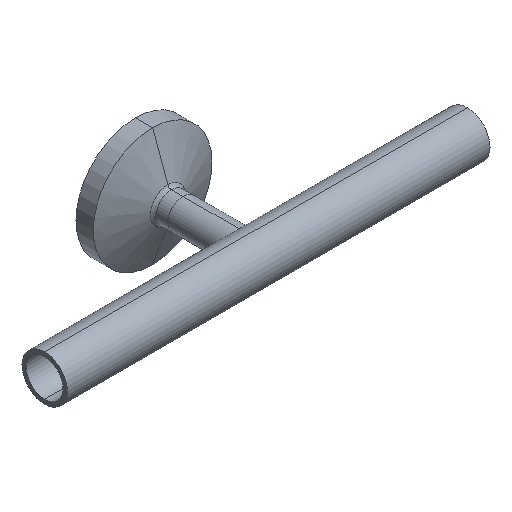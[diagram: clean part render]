
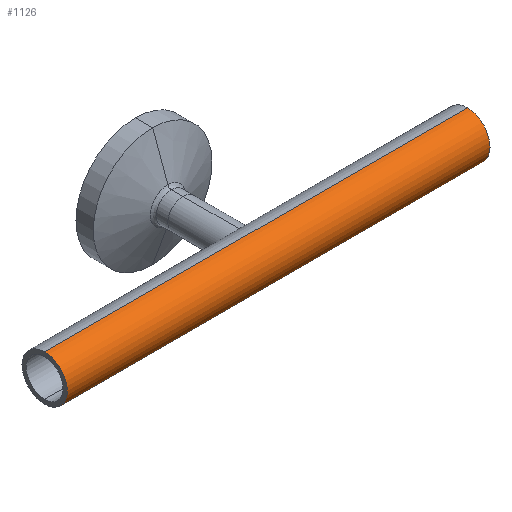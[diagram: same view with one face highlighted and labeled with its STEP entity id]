
A CAD part, isometric view. The second image highlights one B-rep face of the part: STEP entity #1126.
In plain terms, the highlighted cylindrical face has radius 4.765 mm (diameter 9.53 mm), a partial arc.
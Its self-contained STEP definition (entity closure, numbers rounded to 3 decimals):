
#14 = DIRECTION ( 'NONE',  ( 0., 0., -1. ) ) ;
#27 = ORIENTED_EDGE ( 'NONE', *, *, #742, .T. ) ;
#91 = CARTESIAN_POINT ( 'NONE',  ( 44.5, 0., -4.765 ) ) ;
#106 = CARTESIAN_POINT ( 'NONE',  ( -44.5, 0., 0. ) ) ;
#118 = CARTESIAN_POINT ( 'NONE',  ( -44.5, 0., 4.765 ) ) ;
#150 = DIRECTION ( 'NONE',  ( 1., 0., 0. ) ) ;
#158 = FACE_OUTER_BOUND ( 'NONE', #349, .T. ) ;
#169 = CARTESIAN_POINT ( 'NONE',  ( -44.5, 0., 4.765 ) ) ;
#260 = AXIS2_PLACEMENT_3D ( 'NONE', #106, #571, #14 ) ;
#285 = VERTEX_POINT ( 'NONE', #118 ) ;
#349 = EDGE_LOOP ( 'NONE', ( #398, #813, #553, #27 ) ) ;
#398 = ORIENTED_EDGE ( 'NONE', *, *, #1112, .F. ) ;
#421 = EDGE_CURVE ( 'NONE', #285, #1095, #427, .T. ) ;
#426 = VECTOR ( 'NONE', #1108, 1000. ) ;
#427 = CIRCLE ( 'NONE', #669, 4.765 ) ;
#449 = CARTESIAN_POINT ( 'NONE',  ( 44.5, 0., 4.765 ) ) ;
#460 = CYLINDRICAL_SURFACE ( 'NONE', #260, 4.765 ) ;
#492 = LINE ( 'NONE', #568, #761 ) ;
#506 = CARTESIAN_POINT ( 'NONE',  ( 44.5, 0., 0. ) ) ;
#511 = DIRECTION ( 'NONE',  ( -1., 0., 0. ) ) ;
#515 = DIRECTION ( 'NONE',  ( 1., 0., 0. ) ) ;
#526 = DIRECTION ( 'NONE',  ( 0., 0., -1. ) ) ;
#532 = DIRECTION ( 'NONE',  ( 0., 0., -1. ) ) ;
#553 = ORIENTED_EDGE ( 'NONE', *, *, #937, .T. ) ;
#568 = CARTESIAN_POINT ( 'NONE',  ( -44.5, 0., -4.765 ) ) ;
#571 = DIRECTION ( 'NONE',  ( 1., 0., 0. ) ) ;
#669 = AXIS2_PLACEMENT_3D ( 'NONE', #980, #515, #526 ) ;
#741 = VERTEX_POINT ( 'NONE', #449 ) ;
#742 = EDGE_CURVE ( 'NONE', #889, #741, #871, .T. ) ;
#761 = VECTOR ( 'NONE', #150, 1000. ) ;
#766 = LINE ( 'NONE', #169, #426 ) ;
#813 = ORIENTED_EDGE ( 'NONE', *, *, #421, .T. ) ;
#862 = AXIS2_PLACEMENT_3D ( 'NONE', #506, #511, #532 ) ;
#871 = CIRCLE ( 'NONE', #862, 4.765 ) ;
#889 = VERTEX_POINT ( 'NONE', #91 ) ;
#937 = EDGE_CURVE ( 'NONE', #1095, #889, #492, .T. ) ;
#980 = CARTESIAN_POINT ( 'NONE',  ( -44.5, 0., 0. ) ) ;
#1095 = VERTEX_POINT ( 'NONE', #1180 ) ;
#1108 = DIRECTION ( 'NONE',  ( 1., 0., 0. ) ) ;
#1112 = EDGE_CURVE ( 'NONE', #285, #741, #766, .T. ) ;
#1126 = ADVANCED_FACE ( 'NONE', ( #158 ), #460, .T. ) ;
#1180 = CARTESIAN_POINT ( 'NONE',  ( -44.5, 0., -4.765 ) ) ;
